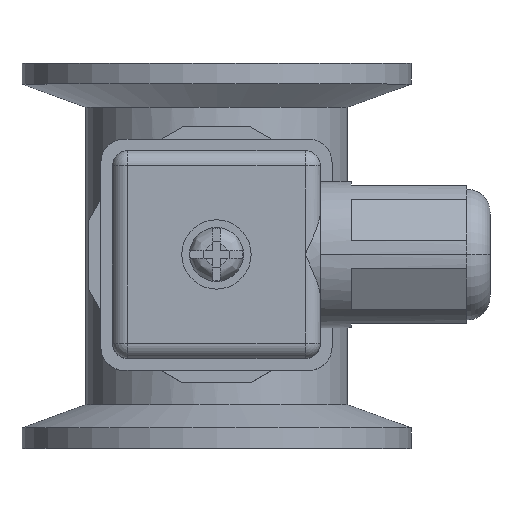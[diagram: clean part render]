
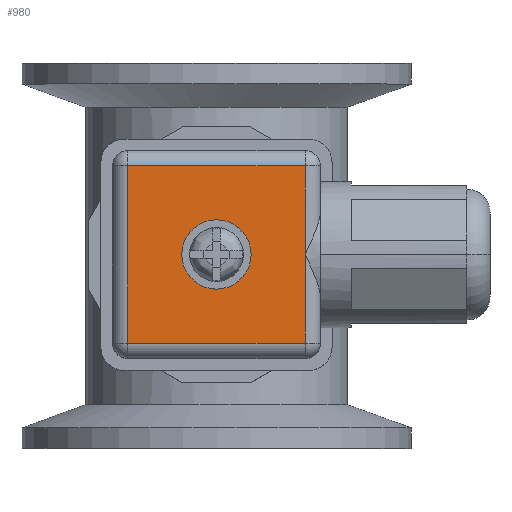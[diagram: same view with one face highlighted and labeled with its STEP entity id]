
A CAD part, top view. The second image highlights one B-rep face of the part: STEP entity #980.
In plain terms, the highlighted planar face has unit normal (0, 0, 1).
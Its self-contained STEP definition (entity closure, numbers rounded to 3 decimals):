
#980=ADVANCED_FACE('',(#1600,#1601),#1315,.F.);
#1315=PLANE('',#7348);
#1463=CIRCLE('',#7346,4.5);
#1464=CIRCLE('',#7347,4.5);
#1600=FACE_BOUND('',#1940,.T.);
#1601=FACE_BOUND('',#1941,.T.);
#1940=EDGE_LOOP('',(#3480,#3481,#3482,#3483,#3484));
#1941=EDGE_LOOP('',(#3485,#3486));
#3480=ORIENTED_EDGE('',*,*,#5394,.F.);
#3481=ORIENTED_EDGE('',*,*,#5446,.F.);
#3482=ORIENTED_EDGE('',*,*,#5447,.F.);
#3483=ORIENTED_EDGE('',*,*,#5405,.F.);
#3484=ORIENTED_EDGE('',*,*,#5401,.F.);
#3485=ORIENTED_EDGE('',*,*,#5448,.T.);
#3486=ORIENTED_EDGE('',*,*,#5449,.T.);
#4515=VERTEX_POINT('',#10698);
#4516=VERTEX_POINT('',#10700);
#4519=VERTEX_POINT('',#10724);
#4521=VERTEX_POINT('',#10732);
#4547=VERTEX_POINT('',#10812);
#4548=VERTEX_POINT('',#10817);
#4549=VERTEX_POINT('',#10818);
#5394=EDGE_CURVE('',#4515,#4516,#6278,.T.);
#5401=EDGE_CURVE('',#4516,#4519,#6281,.T.);
#5405=EDGE_CURVE('',#4519,#4521,#6282,.T.);
#5446=EDGE_CURVE('',#4547,#4515,#6307,.T.);
#5447=EDGE_CURVE('',#4521,#4547,#6308,.T.);
#5448=EDGE_CURVE('',#4548,#4549,#1463,.T.);
#5449=EDGE_CURVE('',#4549,#4548,#1464,.T.);
#6278=LINE('',#10699,#6903);
#6281=LINE('',#10723,#6906);
#6282=LINE('',#10731,#6907);
#6307=LINE('',#10813,#6932);
#6308=LINE('',#10815,#6933);
#6903=VECTOR('',#8730,1.);
#6906=VECTOR('',#8745,1.);
#6907=VECTOR('',#8756,1.);
#6932=VECTOR('',#8841,1.);
#6933=VECTOR('',#8844,1.);
#7346=AXIS2_PLACEMENT_3D('',#10816,#8845,#8846);
#7347=AXIS2_PLACEMENT_3D('',#10819,#8847,#8848);
#7348=AXIS2_PLACEMENT_3D('',#10820,#8849,#8850);
#8730=DIRECTION('',(0.,-1.,0.));
#8745=DIRECTION('',(0.,-1.,0.));
#8756=DIRECTION('',(-1.,0.,0.));
#8841=DIRECTION('',(1.,0.,0.));
#8844=DIRECTION('',(0.,1.,0.));
#8845=DIRECTION('',(0.,0.,-1.));
#8846=DIRECTION('',(0.,-1.,0.));
#8847=DIRECTION('',(0.,0.,-1.));
#8848=DIRECTION('',(0.,1.,0.));
#8849=DIRECTION('',(0.,0.,-1.));
#8850=DIRECTION('',(0.,1.,0.));
#10698=CARTESIAN_POINT('',(37.,47.9,3.5));
#10699=CARTESIAN_POINT('',(37.,47.9,3.5));
#10700=CARTESIAN_POINT('',(37.,36.4,3.5));
#10723=CARTESIAN_POINT('',(37.,36.4,3.5));
#10724=CARTESIAN_POINT('',(37.,24.9,3.5));
#10731=CARTESIAN_POINT('',(37.,24.9,3.5));
#10732=CARTESIAN_POINT('',(14.,24.9,3.5));
#10812=CARTESIAN_POINT('',(14.,47.9,3.5));
#10813=CARTESIAN_POINT('',(14.,47.9,3.5));
#10815=CARTESIAN_POINT('',(14.,24.9,3.5));
#10816=CARTESIAN_POINT('',(25.5,36.4,3.5));
#10817=CARTESIAN_POINT('',(25.5,31.9,3.5));
#10818=CARTESIAN_POINT('',(25.5,40.9,3.5));
#10819=CARTESIAN_POINT('',(25.5,36.4,3.5));
#10820=CARTESIAN_POINT('',(25.5,36.4,3.5));
